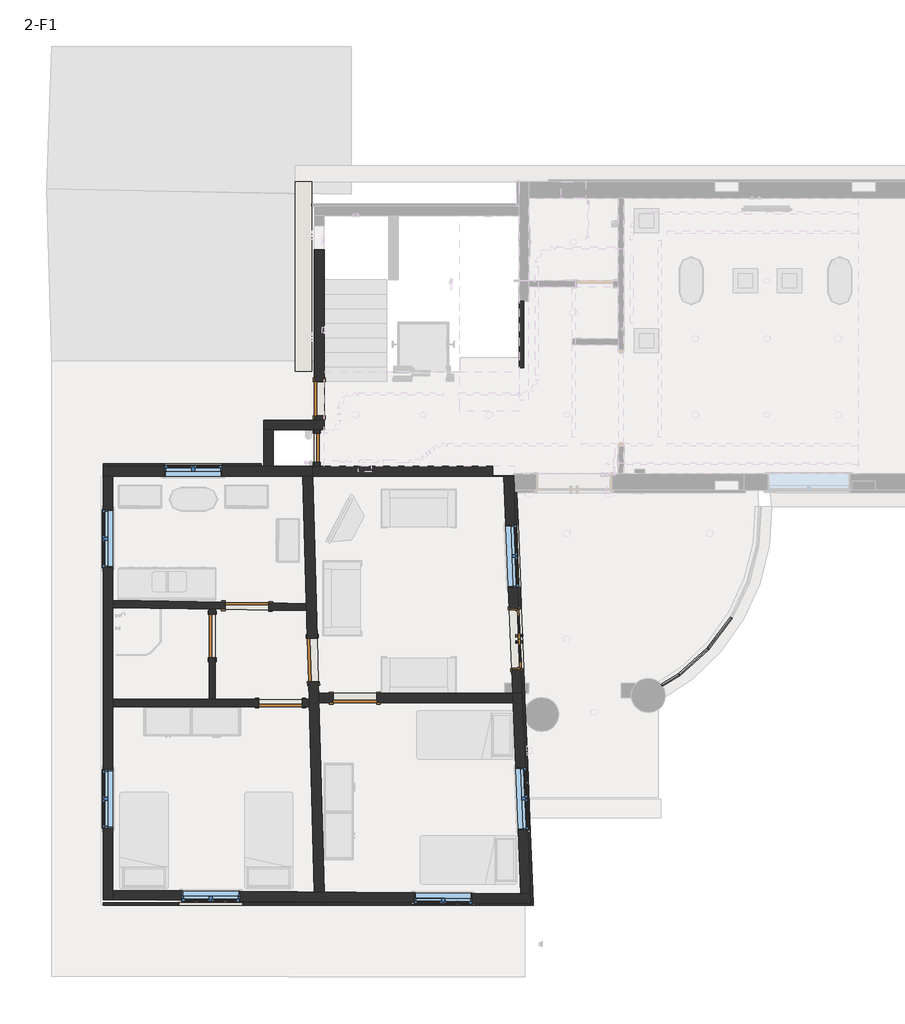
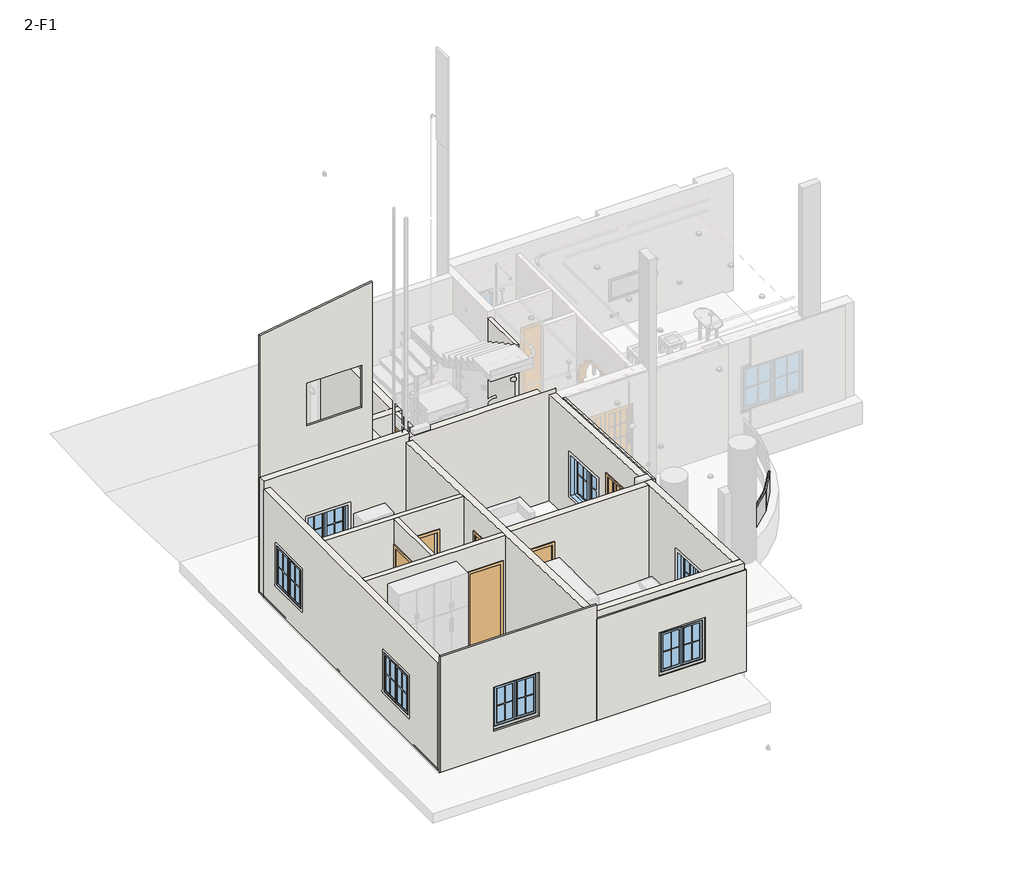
# One storey, part 1 of 6: 22 walls, 8 doors, 7 windows, 3 members, 3 plates.
"""IFC4 building model written with IfcOpenShell, lengths in millimetres."""

from ifc_helpers import new_model, si_unit, frame, origin, place, context, project, spatial, polyline, circle_curve, outline, extrude, faceted_brep, transform, mapped, element, save
from ifc_brep_helpers import plane_surface, revolved_surface, advanced_brep
from components import m_door_interior_double_full_glass_wood_1200_x_2400mm_8371465c, m_single_flush_0700x_2400_d2e98c9f, m_single_flush_0900_x_2400mm_06beea5e, m_single_flush_0900_x_2400mm_e5ebad00, m_single_flush_0900_x_2400mm_549ab639, m_single_flush_0900_x_2400mm_8538d4a5, m_single_flush_600x210mm_be854fa6, circular_mullion_25mm_radius_7246b462, circular_mullion_25mm_radius_00b6462a, circular_mullion_25mm_radius_4165b87d, system_panel_glazed_cc563820, system_panel_glazed_1e96436b, m_window_casement_double_1200_x_1300mm_fd8d9702, m_window_casement_double_1300_x_1300mm_8c8ee3f3

model = new_model("IFC4")

# Units and contexts
model_context = context("Model", 3, world=origin())
ifc_project = project(units=[si_unit("LENGTHUNIT", "METRE", prefix="MILLI")], contexts=[model_context])

# Site, building, storey
site = spatial("IfcSite", under=ifc_project)
building = spatial("IfcBuilding", under=site)
storey = spatial("IfcBuildingStorey", under=building, Name="2-F1", Elevation=3000.0)

# Doors
placement = place(None, origin())
m_door_interior_double_full_glass_wood_1200_x_2400mm_shape = m_door_interior_double_full_glass_wood_1200_x_2400mm_8371465c(model_context)
element("IfcDoor", 1, ObjectType="M_Door-Interior-Double-Full Glass-Wood : 1200 x 2400mm", at=placement, inside=storey, context=model_context, shape_type="MappedRepresentation", body=[
    mapped(m_door_interior_double_full_glass_wood_1200_x_2400mm_shape, transform((-903.2753461, -237.9446907, 3050.0), x_axis=(0.039910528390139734, -0.9992032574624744, 0.0), y_axis=(0.9992032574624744, 0.039910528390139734, 0.0), z_axis=(0.0, 0.0, 1.0))),
])
m_single_flush_0700x_2400_shape = m_single_flush_0700x_2400_d2e98c9f(model_context)
element("IfcDoor", 2, ObjectType="M_Single-Flush : 0700x 2400", at=placement, inside=storey, context=model_context, shape_type="MappedRepresentation", body=[
    mapped(m_single_flush_0700x_2400_shape, transform((-4957.4765921, 4726.9560655, 3050.0), x_axis=(0.0, -1.0, 0.0), y_axis=(1.0, 0.0, 0.0), z_axis=(0.0, 0.0, 1.0))),
])
m_single_flush_0900_x_2400mm_shape = m_single_flush_0900_x_2400mm_06beea5e(model_context)
element("IfcDoor", 3, ObjectType="M_Single-Flush : 0900 x 2400mm", at=placement, inside=storey, context=model_context, shape_type="MappedRepresentation", body=[
    mapped(m_single_flush_0900_x_2400mm_shape, transform((-5088.554955, -671.1432348, 3050.0), x_axis=(0.027542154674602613, -0.9996206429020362, 0.0), y_axis=(0.9996206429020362, 0.027542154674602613, 0.0), z_axis=(0.0, 0.0, 1.0))),
])
m_single_flush_0900_x_2400mm_2_shape = m_single_flush_0900_x_2400mm_e5ebad00(model_context)
element("IfcDoor", 4, ObjectType="M_Single-Flush : 0900 x 2400mm", at=placement, inside=storey, context=model_context, shape_type="MappedRepresentation", body=[
    mapped(m_single_flush_0900_x_2400mm_2_shape, transform((-5756.5778823, -1563.0930566, 3050.0), x_axis=(1.0, 0.0, 0.0), y_axis=(0.0, 1.0, 0.0), z_axis=(0.0, 0.0, 1.0))),
])
element("IfcDoor", 5, ObjectType="M_Single-Flush : 0900 x 2400mm", at=placement, inside=storey, context=model_context, shape_type="MappedRepresentation", body=[
    mapped(m_single_flush_0900_x_2400mm_2_shape, transform((-6448.5993032, 439.8118174, 3050.0), x_axis=(-0.9998657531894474, 0.01638522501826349, 0.0), y_axis=(-0.01638522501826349, -0.9998657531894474, 0.0), z_axis=(0.0, 0.0, 1.0))),
])
m_single_flush_0900_x_2400mm_3_shape = m_single_flush_0900_x_2400mm_549ab639(model_context)
element("IfcDoor", 6, ObjectType="M_Single-Flush : 0900 x 2400mm", at=placement, inside=storey, context=model_context, shape_type="MappedRepresentation", body=[
    mapped(m_single_flush_0900_x_2400mm_3_shape, transform((-7165.704747, -178.6962322, 3050.0), x_axis=(0.0, 1.0, 0.0), y_axis=(-1.0, 0.0, 0.0), z_axis=(0.0, 0.0, 1.0))),
])
m_single_flush_0900_x_2400mm_4_shape = m_single_flush_0900_x_2400mm_8538d4a5(model_context)
element("IfcDoor", 7, ObjectType="M_Single-Flush : 0900 x 2400mm", at=placement, inside=storey, context=model_context, shape_type="MappedRepresentation", body=[
    mapped(m_single_flush_0900_x_2400mm_4_shape, transform((-4222.0310172, -1459.4213317, 3050.0), x_axis=(-1.0, 0.0, 0.0), y_axis=(0.0, -1.0, 0.0), z_axis=(0.0, 0.0, 1.0))),
])
m_single_flush_600x210mm_shape = m_single_flush_600x210mm_be854fa6(model_context)
element("IfcDoor", 8, ObjectType="M_Single-Flush : 600x210mm", at=placement, inside=storey, context=model_context, shape_type="MappedRepresentation", body=[
    mapped(m_single_flush_600x210mm_shape, transform((-5007.4765921, 3709.4560655, 3950.0), x_axis=(0.0, -1.0, 0.0), y_axis=(1.0, 0.0, 0.0), z_axis=(0.0, 0.0, 1.0))),
])

# Members
circular_mullion_25mm_radius_shape = circular_mullion_25mm_radius_7246b462(model_context)
element("IfcMember", 9, ObjectType="Circular Mullion : 25mm Radius", at=placement, inside=storey, context=model_context, shape_type="MappedRepresentation", body=[
    mapped(circular_mullion_25mm_radius_shape, transform((2477.1564521, -973.5816424, 4110.0), x_axis=(0.0, 0.0, 1.0), y_axis=(-0.6682778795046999, 0.743911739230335, 0.0), z_axis=(-0.743911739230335, -0.6682778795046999, 0.0))),
])
circular_mullion_25mm_radius_2_shape = circular_mullion_25mm_radius_00b6462a(model_context)
element("IfcMember", 10, ObjectType="Circular Mullion : 25mm Radius", at=placement, inside=storey, context=model_context, shape_type="MappedRepresentation", body=[
    mapped(circular_mullion_25mm_radius_2_shape, transform((3072.2858434, -438.9593388, 4110.0), x_axis=(0.0, 0.0, 1.0), y_axis=(-0.7997412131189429, 0.6003448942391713, 0.0), z_axis=(-0.6003448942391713, -0.7997412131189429, 0.0))),
])
circular_mullion_25mm_radius_3_shape = circular_mullion_25mm_radius_4165b87d(model_context)
element("IfcMember", 11, ObjectType="Circular Mullion : 25mm Radius", at=placement, inside=storey, context=model_context, shape_type="MappedRepresentation", body=[
    mapped(circular_mullion_25mm_radius_3_shape, transform((1846.8907477, -1355.3612353, 4110.0), x_axis=(0.0, 0.0, 1.0), y_axis=(-0.5181035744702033, 0.8553178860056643, 0.0), z_axis=(-0.8553178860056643, -0.5181035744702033, 0.0))),
])

# Plates
system_panel_glazed_shape = system_panel_glazed_cc563820(model_context)
element("IfcPlate", 12, ObjectType="System Panel : Glazed", at=placement, inside=storey, context=model_context, shape_type="MappedRepresentation", body=[
    mapped(system_panel_glazed_shape, transform((3312.4238011, -119.0628535, 3430.0), x_axis=(-0.6003448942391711, -0.7997412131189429, 0.0), y_axis=(0.7997412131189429, -0.6003448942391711, 0.0), z_axis=(0.0, 0.0, 1.0))),
])
element("IfcPlate", 13, ObjectType="System Panel : Glazed", at=placement, inside=storey, context=model_context, shape_type="MappedRepresentation", body=[
    mapped(system_panel_glazed_shape, transform((2774.7211477, -706.2704906, 3430.0), x_axis=(-0.7439117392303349, -0.6682778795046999, 0.0), y_axis=(0.6682778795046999, -0.7439117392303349, 0.0), z_axis=(0.0, 0.0, 1.0))),
])
system_panel_glazed_2_shape = system_panel_glazed_1e96436b(model_context)
element("IfcPlate", 14, ObjectType="System Panel : Glazed", at=placement, inside=storey, context=model_context, shape_type="MappedRepresentation", body=[
    mapped(system_panel_glazed_2_shape, transform((2162.0235999, -1164.4714388, 3430.0), x_axis=(-0.8553178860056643, -0.5181035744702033, 0.0), y_axis=(0.5181035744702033, -0.8553178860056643, 0.0), z_axis=(0.0, 0.0, 1.0))),
])

# Walls
element("IfcWall", 15, ObjectType="Generic - 200mm", at=placement, inside=storey, context=model_context, shape_type="Brep", body=[
    faceted_brep([(-5098.6621209, 3326.4863231, 3000.0), (-5907.4765921, 3326.4863231, 3000.0), (-6107.4765921, 3326.4863231, 3000.0), (-9417.4765921, 3326.4863231, 3000.0), (-9417.4765921, 3326.4863231, 6550.0), (-6107.4765921, 3326.4863231, 6550.0), (-5907.4765921, 3326.4863231, 6550.0), (-5195.9448103, 3326.4863231, 6550.0), (-5195.9448103, 3326.4863231, 6300.0), (-5098.6621209, 3326.4863231, 6300.0), (-6957.7664451, 3326.4863231, 5000.0), (-8157.7664451, 3326.4863231, 5000.0), (-8157.7664451, 3326.4863231, 3800.0), (-6957.7664451, 3326.4863231, 3800.0), (-5093.1515995, 3126.4863231, 3000.0), (-5093.1515995, 3126.4863231, 6300.0), (-5195.9448103, 3126.4863231, 6300.0), (-5195.9448103, 3126.4863231, 6425.5545865), (-5195.9448103, 3126.4863231, 6550.0), (-9417.4765921, 3126.4863231, 6550.0), (-9417.4765921, 3126.4863231, 6300.0), (-9417.4765921, 3126.4863231, 3000.0), (-9217.4765921, 3126.4863231, 3000.0), (-5293.2274997, 3126.4863231, 3000.0), (-6957.7664451, 3126.4863231, 5000.0), (-6957.7664451, 3126.4863231, 3800.0), (-8157.7664451, 3126.4863231, 3800.0), (-8157.7664451, 3126.4863231, 5000.0)], [[[0, 1, 2, 3, 4, 5, 6, 7, 8, 9], [10, 11, 12, 13]], [[14, 15, 16, 17, 18, 19, 20, 21, 22, 23], [24, 25, 26, 27]], [[3, 2, 1, 0, 14, 23, 22, 21]], [[7, 6, 5, 4, 19, 18]], [[8, 7, 18, 17, 16]], [[8, 16, 15, 9]], [[0, 9, 15, 14]], [[4, 3, 21, 20, 19]], [[25, 24, 10, 13]], [[26, 25, 13, 12]], [[27, 26, 12, 11]], [[24, 27, 11, 10]]]),
])
element("IfcWall", 16, ObjectType="Generic - 200mm", at=placement, inside=storey, context=model_context, shape_type="Brep", body=[
    faceted_brep([(-9417.4765921, 3126.4863231, 3000.0), (-9417.4765921, -5625.3267977, 3000.0), (-9417.4765921, -5625.3267977, 6300.0), (-9417.4765921, 3126.4863231, 6300.0), (-9417.4765921, -2942.6953302, 5000.0), (-9417.4765921, -4142.6953302, 5000.0), (-9417.4765921, -4142.6953302, 3800.0), (-9417.4765921, -2942.6953302, 3800.0), (-9417.4765921, 2435.5038937, 5000.0), (-9417.4765921, 1235.5038937, 5000.0), (-9417.4765921, 1235.5038937, 3800.0), (-9417.4765921, 2435.5038937, 3800.0), (-9217.4765921, 3126.4863231, 3000.0), (-9217.4765921, 3126.4863231, 6300.0), (-9217.4765921, 560.1966561, 6300.0), (-9217.4765921, 410.1765163, 6300.0), (-9217.4765921, -1488.0930566, 6300.0), (-9217.4765921, -1638.0930566, 6300.0), (-9217.4765921, -5427.1304734, 6300.0), (-9217.4765921, -5627.1386806, 6300.0), (-9217.4765921, -5627.1386806, 3000.0), (-9217.4765921, -5427.1304734, 3000.0), (-9217.4765921, -1638.0930566, 3000.0), (-9217.4765921, -1488.0930566, 3000.0), (-9217.4765921, 410.1765163, 3000.0), (-9217.4765921, 560.1966561, 3000.0), (-9217.4765921, -2942.6953302, 5000.0), (-9217.4765921, -2942.6953302, 3800.0), (-9217.4765921, -4142.6953302, 3800.0), (-9217.4765921, -4142.6953302, 5000.0), (-9217.4765921, 2435.5038937, 5000.0), (-9217.4765921, 2435.5038937, 3800.0), (-9217.4765921, 1235.5038937, 3800.0), (-9217.4765921, 1235.5038937, 5000.0)], [[[0, 1, 2, 3], [4, 5, 6, 7], [8, 9, 10, 11]], [[12, 13, 14, 15, 16, 17, 18, 19, 20, 21, 22, 23, 24, 25], [26, 27, 28, 29], [30, 31, 32, 33]], [[1, 0, 12, 25, 24, 23, 22, 21, 20]], [[3, 2, 19, 18, 17, 16, 15, 14, 13]], [[2, 1, 20, 19]], [[0, 3, 13, 12]], [[27, 26, 4, 7]], [[28, 27, 7, 6]], [[29, 28, 6, 5]], [[26, 29, 5, 4]], [[31, 30, 8, 11]], [[32, 31, 11, 10]], [[33, 32, 10, 9]], [[30, 33, 9, 8]]]),
])
element("IfcWall", 17, ObjectType="Generic - 200mm", at=placement, inside=storey, context=model_context, shape_type="Brep", body=[
    faceted_brep([(-9217.4765921, -5627.1386806, 3000.0), (-2931.3480508, -5684.0873245, 3000.0), (-587.99344, -5705.3167452, 3000.0), (-587.99344, -5705.3167452, 6100.0), (-587.99344, -5705.3167452, 6300.0), (-9217.4765921, -5627.1386806, 6300.0), (-2996.7628931, -5683.4947043, 5000.0), (-1796.8121339, -5694.3655556, 5000.0), (-1796.8121339, -5694.3655556, 3800.0), (-2996.7628931, -5683.4947043, 3800.0), (-7796.5659301, -5640.0112992, 5000.0), (-6596.6151708, -5650.8821505, 5000.0), (-6596.6151708, -5650.8821505, 3800.0), (-7796.5659301, -5640.0112992, 3800.0), (-9217.4765921, -5427.1304734, 3000.0), (-9217.4765921, -5427.1304734, 6300.0), (-5056.5144383, -5464.8263542, 6300.0), (-4856.3885846, -5466.6393773, 6300.0), (-796.2170605, -5503.422154, 6300.0), (-595.9851301, -5505.236138, 6300.0), (-595.9851301, -5505.236138, 3000.0), (-796.2170605, -5503.422154, 3000.0), (-4856.3885846, -5466.6393773, 3000.0), (-5056.5144383, -5464.8263542, 3000.0), (-2994.9510846, -5483.5029111, 5000.0), (-2994.9510846, -5483.5029111, 3800.0), (-1795.0003253, -5494.3737624, 3800.0), (-1795.0003253, -5494.3737624, 5000.0), (-7794.7541215, -5440.019506, 5000.0), (-7794.7541215, -5440.019506, 3800.0), (-6594.8033623, -5450.8903573, 3800.0), (-6594.8033623, -5450.8903573, 5000.0), (-588.841393, -5684.0873245, 3000.0)], [[[0, 1, 2, 3, 4, 5], [6, 7, 8, 9], [10, 11, 12, 13]], [[14, 15, 16, 17, 18, 19, 20, 21, 22, 23], [24, 25, 26, 27], [28, 29, 30, 31]], [[0, 5, 15, 14]], [[4, 3, 2, 32, 20, 19]], [[25, 24, 6, 9]], [[26, 25, 9, 8]], [[27, 26, 8, 7]], [[24, 27, 7, 6]], [[29, 28, 10, 13]], [[30, 29, 13, 12]], [[31, 30, 12, 11]], [[28, 31, 11, 10]], [[2, 1, 0, 14, 23, 22, 21, 20, 32]], [[5, 4, 19, 18, 17, 16, 15]]]),
])
element("IfcWall", 18, ObjectType="Generic - 200mm", at=placement, inside=storey, context=model_context, shape_type="Brep", body=[
    faceted_brep([(-595.9851301, -5505.236138, 3000.0), (-761.5787251, -1359.4213317, 3000.0), (-761.5787251, -1359.4213317, 6300.0), (-595.9851301, -5505.236138, 6300.0), (-648.855402, -4181.5716801, 3800.0), (-648.855402, -4181.5716801, 5100.0), (-700.7390889, -2882.6074454, 5100.0), (-700.7390889, -2882.6074454, 3800.0), (-961.7382007, -1359.4213317, 3000.0), (-953.7497302, -1559.4213317, 3000.0), (-796.2170605, -5503.422154, 3000.0), (-796.2170605, -5503.422154, 6300.0), (-953.7497302, -1559.4213317, 6300.0), (-961.7382007, -1359.4213317, 6300.0), (-848.6960535, -4189.5537857, 5100.0), (-848.6960535, -4189.5537857, 3800.0), (-900.5797404, -2890.589551, 3800.0), (-900.5797404, -2890.589551, 5100.0)], [[[0, 1, 2, 3], [4, 5, 6, 7]], [[8, 9, 10, 11, 12, 13], [14, 15, 16, 17]], [[1, 0, 10, 9, 8]], [[3, 2, 13, 12, 11]], [[0, 3, 11, 10]], [[14, 5, 4, 15]], [[15, 4, 7, 16]], [[16, 7, 6, 17]], [[5, 14, 17, 6]], [[2, 1, 8, 13]]]),
])
element("IfcWall", 19, ObjectType="Generic - 200mm", at=placement, inside=storey, context=model_context, shape_type="Brep", body=[
    faceted_brep([(-961.7382007, -1359.4213317, 3000.0), (-4969.5531491, -1359.4213317, 3000.0), (-4969.5531491, -1359.4213317, 6300.0), (-961.7382007, -1359.4213317, 6300.0), (-3772.0310172, -1359.4213317, 3050.0), (-3772.0310172, -1359.4213317, 5475.0), (-4672.0310172, -1359.4213317, 5475.0), (-4672.0310172, -1359.4213317, 3050.0), (-953.7497302, -1559.4213317, 3000.0), (-953.7497302, -1559.4213317, 6300.0), (-4964.0426277, -1559.4213317, 6300.0), (-4964.0426277, -1559.4213317, 3000.0), (-3772.0310172, -1559.4213317, 3050.0), (-4672.0310172, -1559.4213317, 3050.0), (-4672.0310172, -1559.4213317, 5475.0), (-3772.0310172, -1559.4213317, 5475.0)], [[[0, 1, 2, 3], [4, 5, 6, 7]], [[8, 9, 10, 11], [12, 13, 14, 15]], [[1, 0, 8, 11]], [[3, 2, 10, 9]], [[2, 1, 11, 10]], [[13, 12, 4, 7]], [[14, 13, 7, 6]], [[15, 14, 6, 5]], [[12, 15, 5, 4]], [[0, 3, 9, 8]]]),
])
element("IfcWall", 20, ObjectType="Generic - 200mm", at=placement, inside=storey, context=model_context, shape_type="Brep", body=[
    faceted_brep([(-4856.3885846, -5466.6393773, 3000.0), (-4964.0426277, -1559.4213317, 3000.0), (-4969.5531491, -1359.4213317, 3000.0), (-5093.1515995, 3126.4863231, 3000.0), (-5093.1515995, 3126.4863231, 6300.0), (-4969.5531491, -1359.4213317, 6300.0), (-4964.0426277, -1559.4213317, 6300.0), (-4856.3885846, -5466.6393773, 6300.0), (-5000.9868604, -218.5597301, 3050.0), (-4976.1989212, -1118.2183087, 3050.0), (-4976.1989212, -1118.2183087, 5475.0), (-5000.9868604, -218.5597301, 5475.0), (-5056.5144383, -5464.8263542, 3000.0), (-5056.5144383, -5464.8263542, 6300.0), (-5161.9509168, -1638.0930566, 6300.0), (-5166.0838078, -1488.0930566, 6300.0), (-5216.5796131, 344.6121172, 6300.0), (-5220.7149262, 494.7000241, 6300.0), (-5293.2274997, 3126.4863231, 6300.0), (-5293.2274997, 3126.4863231, 3000.0), (-5220.7149262, 494.7000241, 3000.0), (-5216.5796131, 344.6121172, 3000.0), (-5166.0838078, -1488.0930566, 3000.0), (-5161.9509168, -1638.0930566, 3000.0), (-5200.9109889, -224.068161, 3050.0), (-5200.9109889, -224.068161, 5475.0), (-5176.1230497, -1123.7267396, 5475.0), (-5176.1230497, -1123.7267396, 3050.0), (-5195.9448103, 3126.4863231, 6300.0)], [[[0, 1, 2, 3, 4, 5, 6, 7], [8, 9, 10, 11]], [[12, 13, 14, 15, 16, 17, 18, 19, 20, 21, 22, 23], [24, 25, 26, 27]], [[3, 2, 1, 0, 12, 23, 22, 21, 20, 19]], [[7, 6, 5, 4, 28, 18, 17, 16, 15, 14, 13]], [[0, 7, 13, 12]], [[4, 3, 19, 18, 28]], [[9, 8, 24, 27]], [[10, 9, 27, 26]], [[11, 10, 26, 25]], [[8, 11, 25, 24]]]),
])
element("IfcWall", 21, ObjectType="Generic - 200mm", at=placement, inside=storey, context=model_context, shape_type="Brep", body=[
    faceted_brep([(-4857.4765921, 4284.4560655, 6550.0), (-4857.4765921, 4284.4560655, 3000.0), (-5057.4765921, 4284.4560655, 3000.0), (-5107.4765921, 4284.4560655, 3000.0), (-6107.4765921, 4284.4560655, 3000.0), (-6107.4765921, 4284.4560655, 6550.0), (-5057.4765921, 4284.4560655, 6550.0), (-4857.4765921, 4084.4560655, 3000.0), (-4857.4765921, 4084.4560655, 6550.0), (-4957.4765921, 4084.4560655, 6550.0), (-5057.4765921, 4084.4560655, 6550.0), (-5907.4765921, 4084.4560655, 6550.0), (-6107.4765921, 4084.4560655, 6550.0), (-6107.4765921, 4084.4560655, 3000.0), (-5907.4765921, 4084.4560655, 3000.0), (-5057.4765921, 4084.4560655, 3000.0), (-4957.4765921, 4084.4560655, 3000.0)], [[[0, 1, 2, 3, 4, 5, 6]], [[7, 8, 9, 10, 11, 12, 13, 14, 15, 16]], [[4, 3, 2, 1, 7, 16, 15, 14, 13]], [[0, 6, 5, 12, 11, 10, 9, 8]], [[5, 4, 13, 12]], [[0, 8, 7, 1]]]),
])
element("IfcWall", 22, ObjectType="Generic - 200mm", at=placement, inside=storey, context=model_context, shape_type="SweptSolid", body=[
    extrude(outline(polyline([(-6107.4765921, 3326.4863231), (-6107.4765921, 4084.4560655), (-5907.4765921, 4084.4560655), (-5907.4765921, 3326.4863231), (-6107.4765921, 3326.4863231)])), frame((0.0, 0.0, 3000.0), z_axis=(0.0, 0.0, 1.0), x_axis=(1.0, 0.0, 0.0)), (0.0, 0.0, 1.0), 3550.0),
])
element("IfcWall", 23, ObjectType="Generic - 200mm", at=placement, inside=storey, context=model_context, shape_type="Brep", body=[
    faceted_brep([(-761.5787251, -1359.4213317, 3000.0), (-926.9428586, 2780.6486583, 3000.0), (-928.9399762, 2830.6486583, 3000.0), (-940.7564284, 3126.4863231, 3000.0), (-940.7564284, 3126.4863231, 6300.0), (-928.9399762, 2830.6486583, 6300.0), (-926.9428586, 2780.6486583, 6300.0), (-761.5787251, -1359.4213317, 6300.0), (-781.5834105, -858.5823897, 5475.0), (-831.471571, 390.4216821, 5475.0), (-831.471571, 390.4216821, 3050.0), (-781.5834105, -858.5823897, 3050.0), (-848.9229213, 827.3351187, 3800.0), (-848.9229213, 827.3351187, 5100.0), (-900.8066082, 2126.2993534, 5100.0), (-900.8066082, 2126.2993534, 3800.0), (-1140.915904, 3126.4863231, 3000.0), (-961.7382007, -1359.4213317, 3000.0), (-961.7382007, -1359.4213317, 6300.0), (-1140.915904, 3126.4863231, 6300.0), (-1031.3122225, 382.4395764, 5475.0), (-981.424062, -866.5644954, 5475.0), (-981.424062, -866.5644954, 3050.0), (-1031.3122225, 382.4395764, 3050.0), (-1048.7635728, 819.3530131, 5100.0), (-1048.7635728, 819.3530131, 3800.0), (-1100.6472597, 2118.3172478, 3800.0), (-1100.6472597, 2118.3172478, 5100.0)], [[[0, 1, 2, 3, 4, 5, 6, 7], [8, 9, 10, 11], [12, 13, 14, 15]], [[16, 17, 18, 19], [20, 21, 22, 23], [24, 25, 26, 27]], [[3, 2, 1, 0, 17, 16]], [[7, 6, 5, 4, 19, 18]], [[8, 21, 20, 9]], [[9, 20, 23, 10]], [[10, 23, 22, 11]], [[25, 24, 13, 12]], [[26, 25, 12, 15]], [[27, 26, 15, 14]], [[24, 27, 14, 13]], [[21, 8, 11, 22]], [[4, 3, 16, 19]], [[0, 7, 18, 17]]]),
])
element("IfcWall", 24, ObjectType="Generic - 200mm", at=placement, inside=storey, context=model_context, shape_type="Brep", body=[
    faceted_brep([(-5093.1515995, 3126.4863231, 3000.0), (-1140.915904, 3126.4863231, 3000.0), (-940.7564284, 3126.4863231, 3000.0), (-940.7564284, 3126.4863231, 6300.0), (-940.7564284, 3126.4863231, 6425.5545865), (-5195.9448103, 3126.4863231, 6425.5545865), (-5195.9448103, 3126.4863231, 6300.0), (-5093.1515995, 3126.4863231, 6300.0), (-5195.9448103, 3326.4863231, 6300.0), (-5195.9448103, 3326.4863231, 6425.5545865), (-1367.4765921, 3326.4863231, 6425.5545865), (-1367.4765921, 3326.4863231, 3000.0), (-4957.4765921, 3326.4863231, 3000.0), (-5057.4765921, 3326.4863231, 3000.0), (-5098.6621209, 3326.4863231, 3000.0), (-5098.6621209, 3326.4863231, 6300.0), (-2857.8606653, 3326.4863231, 3420.0), (-2857.8606653, 3326.4863231, 3480.0), (-2917.8606653, 3326.4863231, 3480.0), (-2917.8606653, 3326.4863231, 3420.0), (-1367.4765921, 3134.4560655, 3000.0), (-941.0747587, 3134.4560655, 3000.0), (-941.0747587, 3134.4560655, 6425.5545865), (-1367.4765921, 3134.4560655, 6425.5545865), (-2857.8606653, 3276.4863231, 3420.0), (-2917.8606653, 3276.4863231, 3420.0), (-2917.8606653, 3276.4863231, 3480.0), (-2857.8606653, 3276.4863231, 3480.0)], [[[0, 1, 2, 3, 4, 5, 6, 7]], [[8, 9, 10, 11, 12, 13, 14, 15], [16, 17, 18, 19]], [[2, 1, 0, 14, 13, 12, 11, 20, 21]], [[5, 4, 22, 23, 10, 9]], [[4, 3, 2, 21, 22]], [[5, 9, 8, 6]], [[6, 8, 15, 7]], [[0, 7, 15, 14]], [[24, 25, 26, 27]], [[24, 27, 17, 16]], [[27, 26, 18, 17]], [[26, 25, 19, 18]], [[25, 24, 16, 19]], [[23, 20, 11, 10]], [[20, 23, 22, 21]]]),
])
element("IfcWall", 25, ObjectType="Generic - 200mm", at=placement, inside=storey, context=model_context, shape_type="AdvancedBrep", body=[
    advanced_brep(
    [(-5057.4765921, 7801.6620874, 3000.0), (-5057.4765921, 4284.4560655, 3000.0), (-5057.4765921, 4284.4560655, 6300.0), (-5057.4765921, 4284.4560655, 6550.0), (-5057.4765921, 7801.6620874, 6550.0), (-5057.4765921, 5076.9560655, 3050.0), (-5057.4765921, 5076.9560655, 5450.0), (-5057.4765921, 4376.9560655, 5450.0), (-5057.4765921, 4376.9560655, 3050.0), (-4857.4765921, 4284.4560655, 3000.0), (-4857.4765921, 7801.6620874, 3000.0), (-4857.4765921, 7801.6620874, 6550.0), (-4857.4765921, 4284.4560655, 6550.0), (-4857.4765921, 5076.9560655, 3050.0), (-4857.4765921, 4376.9560655, 3050.0), (-4857.4765921, 4376.9560655, 5450.0), (-4857.4765921, 5076.9560655, 5450.0), (-4857.4765921, 5364.4560655, 4120.0), (-4857.4765921, 5364.4560655, 4180.0), (-4857.4765921, 5424.4560655, 4180.0), (-4857.4765921, 5424.4560655, 4120.0), (-4857.4765921, 5484.4560655, 4120.0), (-4857.4765921, 5484.4560655, 4180.0), (-4857.4765921, 5544.4560655, 4180.0), (-4857.4765921, 5544.4560655, 4120.0), (-4857.4765921, 6201.0955313, 5289.1812865), (-4857.4765921, 6091.0955313, 5289.1812865), (-4907.4765921, 5364.4560655, 4120.0), (-4907.4765921, 5424.4560655, 4120.0), (-4907.4765921, 5424.4560655, 4180.0), (-4907.4765921, 5364.4560655, 4180.0), (-4907.4765921, 5484.4560655, 4120.0), (-4907.4765921, 5544.4560655, 4120.0), (-4907.4765921, 5544.4560655, 4180.0), (-4907.4765921, 5484.4560655, 4180.0), (-4895.5765921, 6091.0955313, 5289.1812865), (-4895.5765921, 6201.0955313, 5289.1812865)],
    [
        (0, 1),
        (1, 2),
        (2, 3),
        (3, 4),
        (4, 0),
        (5, 6),
        (6, 7),
        (7, 8),
        (8, 5),
        (9, 10),
        (10, 11),
        (11, 12),
        (12, 9),
        (13, 14),
        (14, 15),
        (15, 16),
        (16, 13),
        (17, 18),
        (18, 19),
        (19, 20),
        (20, 17),
        (21, 22),
        (22, 23),
        (23, 24),
        (24, 21),
        (25, 26, circle_curve(frame((-4857.4765921, 6146.0955313, 5289.1812865), z_axis=(-1.0, 0.0, 0.0), x_axis=(0.0, 1.0, 0.0)), 55.0)),
        (26, 25, circle_curve(frame((-4857.4765921, 6146.0955313, 5289.1812865), z_axis=(-1.0, 0.0, 0.0), x_axis=(0.0, 1.0, 0.0)), 55.0)),
        (0, 10),
        (9, 1),
        (3, 12),
        (11, 4),
        (16, 6),
        (5, 13),
        (15, 7),
        (14, 8),
        (27, 28),
        (28, 29),
        (29, 30),
        (30, 27),
        (30, 18),
        (17, 27),
        (29, 19),
        (28, 20),
        (31, 32),
        (32, 33),
        (33, 34),
        (34, 31),
        (34, 22),
        (21, 31),
        (33, 23),
        (32, 24),
        (35, 36, circle_curve(frame((-4895.5765921, 6146.0955313, 5289.1812865), z_axis=(1.0, 0.0, 0.0), x_axis=(0.0, 1.0, 0.0)), 55.0)),
        (36, 35, circle_curve(frame((-4895.5765921, 6146.0955313, 5289.1812865), z_axis=(1.0, 0.0, 0.0), x_axis=(0.0, 1.0, 0.0)), 55.0)),
        (35, 26),
        (25, 36),
    ],
    [
        plane_surface(frame((-5057.4765921, 8301.6620874, 3000.0), z_axis=(-1.0, 0.0, 0.0), x_axis=(0.0, -1.0, 0.0))),
        plane_surface(frame((-4857.4765921, 8301.6620874, 3000.0), z_axis=(1.0, 0.0, 0.0), x_axis=(0.0, 1.0, 0.0))),
        plane_surface(frame((-5057.4765921, 7801.6620874, 3000.0), z_axis=(0.0, 0.0, -1.0), x_axis=(1.0, 0.0, 0.0))),
        plane_surface(frame((-5057.4765921, 4184.4560655, 6550.0), z_axis=(0.0, 0.0, 1.0), x_axis=(1.0, 0.0, 0.0))),
        plane_surface(frame((-5057.4765921, 7801.6620874, 6550.0), z_axis=(0.0, 1.0, 0.0), x_axis=(1.0, 0.0, 0.0))),
        plane_surface(frame((-4479.5344445, 4284.4560655, 3000.0), z_axis=(0.0, -1.0, 0.0), x_axis=(-1.0, 0.0, 0.0))),
        plane_surface(frame((-4857.4765921, 5076.9560655, 5450.0), z_axis=(0.0, -1.0, 0.0), x_axis=(-1.0, 0.0, 0.0))),
        plane_surface(frame((-4857.4765921, 4376.9560655, 5450.0), z_axis=(0.0, 0.0, -1.0), x_axis=(-1.0, 0.0, 0.0))),
        plane_surface(frame((-4857.4765921, 4376.9560655, 3050.0), z_axis=(0.0, 1.0, 0.0), x_axis=(-1.0, 0.0, 0.0))),
        plane_surface(frame((-4857.4765921, 5076.9560655, 3050.0), z_axis=(0.0, 0.0, 1.0), x_axis=(-1.0, 0.0, 0.0))),
        plane_surface(frame((-4907.4765921, 5364.4560655, 4120.0), z_axis=(1.0, 0.0, 0.0), x_axis=(0.0, 0.0, 1.0))),
        plane_surface(frame((-4907.4765921, 5364.4560655, 4120.0), z_axis=(0.0, 1.0, 0.0), x_axis=(1.0, 0.0, 0.0))),
        plane_surface(frame((-4907.4765921, 5364.4560655, 4180.0), z_axis=(0.0, 0.0, -1.0), x_axis=(1.0, 0.0, 0.0))),
        plane_surface(frame((-4907.4765921, 5424.4560655, 4180.0), z_axis=(0.0, -1.0, 0.0), x_axis=(1.0, 0.0, 0.0))),
        plane_surface(frame((-4907.4765921, 5424.4560655, 4120.0), z_axis=(0.0, 0.0, 1.0), x_axis=(1.0, 0.0, 0.0))),
        plane_surface(frame((-4907.4765921, 5484.4560655, 4120.0), z_axis=(1.0, 0.0, 0.0), x_axis=(0.0, 0.0, 1.0))),
        plane_surface(frame((-4907.4765921, 5484.4560655, 4120.0), z_axis=(0.0, 1.0, 0.0), x_axis=(1.0, 0.0, 0.0))),
        plane_surface(frame((-4907.4765921, 5484.4560655, 4180.0), z_axis=(0.0, 0.0, -1.0), x_axis=(1.0, 0.0, 0.0))),
        plane_surface(frame((-4907.4765921, 5544.4560655, 4180.0), z_axis=(0.0, -1.0, 0.0), x_axis=(1.0, 0.0, 0.0))),
        plane_surface(frame((-4907.4765921, 5544.4560655, 4120.0), z_axis=(0.0, 0.0, 1.0), x_axis=(1.0, 0.0, 0.0))),
        plane_surface(frame((-4895.5765921, 6201.0955313, 5289.1812865), z_axis=(1.0, 0.0, 0.0), x_axis=(0.0, 0.0, -1.0))),
        revolved_surface(polyline([(-4857.4765921, 6201.0955313, 5289.1812865), (-4895.5765921, 6201.0955313, 5289.1812865)]), (-4895.5765921, 6146.0955313, 5289.1812865), (1.0, 0.0, 0.0)),
    ],
    [
        (0, [[1, 2, 3, 4, 5], [6, 7, 8, 9]]),
        (1, [[10, 11, 12, 13], [14, 15, 16, 17], [18, 19, 20, 21], [22, 23, 24, 25], [26, 27]]),
        (2, [[-1, 28, -10, 29]]),
        (3, [[-4, 30, -12, 31]]),
        (4, [[-5, -31, -11, -28]]),
        (5, [[-3, -2, -29, -13, -30]]),
        (6, [[-17, 32, -6, 33]]),
        (7, [[-16, 34, -7, -32]]),
        (8, [[-15, 35, -8, -34]]),
        (9, [[-14, -33, -9, -35]]),
        (10, [[36, 37, 38, 39]]),
        (11, [[-39, 40, -18, 41]]),
        (12, [[-38, 42, -19, -40]]),
        (13, [[-37, 43, -20, -42]]),
        (14, [[-36, -41, -21, -43]]),
        (15, [[44, 45, 46, 47]]),
        (16, [[-47, 48, -22, 49]]),
        (17, [[-46, 50, -23, -48]]),
        (18, [[-45, 51, -24, -50]]),
        (19, [[-44, -49, -25, -51]]),
        (20, [[52, 53]]),
        (21, [[-52, 54, -26, 55]]),
        (21, [[-53, -55, -27, -54]]),
    ],
),
])
element("IfcWall", 26, ObjectType="Generic -10", at=placement, inside=storey, context=model_context, shape_type="SweptSolid", body=[
    extrude(outline(polyline([(4084.4560655, 3000.0), (3326.4863231, 3000.0), (3326.4863231, 6550.0), (4084.4560655, 6550.0), (4084.4560655, 3000.0)]), holes=[polyline([(3409.4560655, 3950.0), (4009.4560655, 3950.0), (4009.4560655, 6050.0), (3409.4560655, 6050.0), (3409.4560655, 3950.0)])]), frame((-5057.4765921, 0.0, 0.0), z_axis=(1.0, 0.0, 0.0), x_axis=(0.0, 1.0, 0.0)), (0.0, 0.0, 1.0), 100.0),
])
element("IfcWall", 27, ObjectType="Generic -120mm", at=placement, inside=storey, context=model_context, shape_type="Brep", body=[
    faceted_brep([(-7105.704747, -1488.0930566, 3000.0), (-7105.704747, 375.5700137, 3000.0), (-7105.704747, 375.5700137, 6300.0), (-7105.704747, -1488.0930566, 6300.0), (-7105.704747, 271.3037678, 3050.0), (-7105.704747, -628.6962322, 3050.0), (-7105.704747, -628.6962322, 5475.0), (-7105.704747, 271.3037678, 5475.0), (-7225.704747, 377.5365047, 3000.0), (-7225.704747, -1488.0930566, 3000.0), (-7225.704747, -1488.0930566, 6300.0), (-7225.704747, 377.5365047, 6300.0), (-7225.704747, -628.6962322, 3050.0), (-7225.704747, 271.3037678, 3050.0), (-7225.704747, 271.3037678, 5475.0), (-7225.704747, -628.6962322, 5475.0)], [[[0, 1, 2, 3], [4, 5, 6, 7]], [[8, 9, 10, 11], [12, 13, 14, 15]], [[1, 0, 9, 8]], [[3, 2, 11, 10]], [[2, 1, 8, 11]], [[12, 5, 4, 13]], [[13, 4, 7, 14]], [[14, 7, 6, 15]], [[5, 12, 15, 6]], [[0, 3, 10, 9]]]),
])
element("IfcWall", 28, ObjectType="Generic -150mm", at=placement, inside=storey, context=model_context, shape_type="Brep", body=[
    faceted_brep([(-9217.4765921, -1638.0930566, 3000.0), (-5161.9509168, -1638.0930566, 3000.0), (-5161.9509168, -1638.0930566, 6300.0), (-9217.4765921, -1638.0930566, 6300.0), (-6206.5778823, -1638.0930566, 3050.0), (-6206.5778823, -1638.0930566, 5475.0), (-5306.5778823, -1638.0930566, 5475.0), (-5306.5778823, -1638.0930566, 3050.0), (-9217.4765921, -1488.0930566, 3000.0), (-9217.4765921, -1488.0930566, 6300.0), (-7225.704747, -1488.0930566, 6300.0), (-7105.704747, -1488.0930566, 6300.0), (-5166.0838078, -1488.0930566, 6300.0), (-5166.0838078, -1488.0930566, 3000.0), (-7105.704747, -1488.0930566, 3000.0), (-7225.704747, -1488.0930566, 3000.0), (-6206.5778823, -1488.0930566, 3050.0), (-5306.5778823, -1488.0930566, 3050.0), (-5306.5778823, -1488.0930566, 5475.0), (-6206.5778823, -1488.0930566, 5475.0)], [[[0, 1, 2, 3], [4, 5, 6, 7]], [[8, 9, 10, 11, 12, 13, 14, 15], [16, 17, 18, 19]], [[1, 0, 8, 15, 14, 13]], [[3, 2, 12, 11, 10, 9]], [[0, 3, 9, 8]], [[2, 1, 13, 12]], [[17, 16, 4, 7]], [[18, 17, 7, 6]], [[19, 18, 6, 5]], [[16, 19, 5, 4]]]),
])
element("IfcWall", 29, ObjectType="Generic -150mm", at=placement, inside=storey, context=model_context, shape_type="Brep", body=[
    faceted_brep([(-9217.4765921, 410.1765163, 3000.0), (-7225.704747, 377.5365047, 3000.0), (-7105.704747, 375.5700137, 3000.0), (-5216.5796131, 344.6121172, 3000.0), (-5216.5796131, 344.6121172, 6300.0), (-7105.704747, 375.5700137, 6300.0), (-7225.704747, 377.5365047, 6300.0), (-9217.4765921, 410.1765163, 6300.0), (-5999.8886062, 357.4485346, 3050.0), (-6899.767784, 372.1952371, 3050.0), (-6899.767784, 372.1952371, 5475.0), (-5999.8886062, 357.4485346, 5475.0), (-9217.4765921, 560.1966561, 3000.0), (-9217.4765921, 560.1966561, 6300.0), (-5220.7149262, 494.7000241, 6300.0), (-5220.7149262, 494.7000241, 3000.0), (-5997.4308224, 507.4283976, 3050.0), (-5997.4308224, 507.4283976, 5475.0), (-6897.3100003, 522.1751001, 5475.0), (-6897.3100003, 522.1751001, 3050.0)], [[[0, 1, 2, 3, 4, 5, 6, 7], [8, 9, 10, 11]], [[12, 13, 14, 15], [16, 17, 18, 19]], [[3, 2, 1, 0, 12, 15]], [[7, 6, 5, 4, 14, 13]], [[0, 7, 13, 12]], [[4, 3, 15, 14]], [[9, 8, 16, 19]], [[10, 9, 19, 18]], [[11, 10, 18, 17]], [[8, 11, 17, 16]]]),
])
element("IfcWall", 30, ObjectType="Wall1", at=placement, inside=storey, context=model_context, shape_type="SweptSolid", body=[
    extrude(outline(polyline([(-5107.4765921, 9201.6620874), (-5107.4765921, 5291.9560655), (-5447.4765921, 5291.9560655), (-5447.4765921, 9201.6620874), (-5107.4765921, 9201.6620874)])), frame((0.0, 0.0, 2750.0), z_axis=(0.0, 0.0, 1.0), x_axis=(1.0, 0.0, 0.0)), (0.0, 0.0, 1.0), 680.0),
])
element("IfcWall", 31, ObjectType="exterior stone walls", at=placement, inside=storey, context=model_context, shape_type="Brep", body=[
    faceted_brep([(-4875.4457195, -5684.0873245, 3000.0), (-4875.4457195, -5684.0873245, 6100.0), (-2931.3480508, -5684.0873245, 6100.0), (-2931.3480508, -5684.0873245, 5060.0), (-3056.9330058, -5684.0873245, 5060.0), (-3056.9330058, -5684.0873245, 3719.5676291), (-2931.3480508, -5684.0873245, 3719.5676291), (-2931.3480508, -5684.0873245, 3000.0), (-538.8015241, -5684.0873245, 6100.0), (-538.8015241, -5684.0873245, 3000.0), (-588.841393, -5684.0873245, 3000.0), (-588.841393, -5684.0873245, 6100.0), (-4875.4457195, -5734.0873245, 3000.0), (-536.8044065, -5734.0873245, 3000.0), (-536.8044065, -5734.0873245, 6100.0), (-4875.4457195, -5734.0873245, 6100.0), (-3056.9330058, -5734.0873245, 5060.0), (-1736.9871707, -5734.0873245, 5060.0), (-1736.9871707, -5734.0873245, 3719.5676291), (-3056.9330058, -5734.0873245, 3719.5676291), (-587.99344, -5705.3167452, 3000.0), (-587.99344, -5705.3167452, 6100.0), (-1736.9871707, -5694.9075347, 5060.0), (-1736.9871707, -5694.9075347, 3719.5676291)], [[[0, 1, 2, 3, 4, 5, 6, 7]], [[8, 9, 10, 11]], [[12, 13, 14, 15], [16, 17, 18, 19]], [[13, 12, 0, 7, 20, 10, 9]], [[1, 0, 12, 15]], [[15, 14, 8, 11, 21, 2, 1]], [[16, 4, 3, 22, 17]], [[5, 19, 18, 23, 6]], [[18, 17, 22, 23]], [[4, 16, 19, 5]], [[21, 20, 7, 6, 23, 22, 3, 2]], [[20, 21, 11, 10]], [[9, 8, 14, 13]]]),
])
element("IfcWall", 32, ObjectType="exterior stone walls", at=placement, inside=storey, context=model_context, shape_type="Brep", body=[
    faceted_brep([(-4875.4457195, -5684.0873245, 2750.0), (-9417.4765921, -5684.0873245, 2750.0), (-9417.4765921, -5684.0873245, 6550.0), (-4875.4457195, -5684.0873245, 6550.0), (-4875.4457195, -5684.0873245, 6100.0), (-4875.4457195, -5684.0873245, 3000.0), (-6536.7902076, -5684.0873245, 5060.0), (-7856.7902076, -5684.0873245, 5060.0), (-7856.7902076, -5684.0873245, 3719.5676291), (-6536.7902076, -5684.0873245, 3719.5676291), (-9417.4765921, -5734.0873245, 2750.0), (-4875.4457195, -5734.0873245, 2750.0), (-4875.4457195, -5734.0873245, 3000.0), (-4875.4457195, -5734.0873245, 6100.0), (-4875.4457195, -5734.0873245, 6550.0), (-9417.4765921, -5734.0873245, 6550.0), (-9417.4765921, -5734.0873245, 3000.0), (-7856.7902076, -5734.0873245, 5060.0), (-6536.7902076, -5734.0873245, 5060.0), (-6536.7902076, -5734.0873245, 3719.5676291), (-7856.7902076, -5734.0873245, 3719.5676291)], [[[0, 1, 2, 3, 4, 5], [6, 7, 8, 9]], [[10, 11, 12, 13, 14, 15, 16], [17, 18, 19, 20]], [[1, 0, 11, 10]], [[3, 2, 15, 14]], [[0, 5, 4, 3, 14, 13, 12, 11]], [[2, 1, 10, 16, 15]], [[6, 18, 17, 7]], [[8, 20, 19, 9]], [[18, 6, 9, 19]], [[7, 17, 20, 8]]]),
])
element("IfcWall", 33, ObjectType="exterior stone walls", at=placement, inside=storey, context=model_context, shape_type="Brep", body=[
    faceted_brep([(-538.8015241, -5684.0873245, 3000.0), (-707.9629788, -1448.9472914, 3000.0), (-707.9629788, -1448.9472914, 6100.0), (-538.8015241, -5684.0873245, 6100.0), (-596.6689733, -4235.3131267, 5145.3880973), (-652.5437131, -2836.4285663, 5145.3880973), (-652.5437131, -2836.4285663, 3713.3014301), (-596.6689733, -4235.3131267, 3713.3014301), (-757.9231417, -1450.9428178, 3000.0), (-588.841393, -5684.0873245, 3000.0), (-588.841393, -5684.0873245, 6100.0), (-757.9231417, -1450.9428178, 6100.0), (-702.503876, -2838.4240927, 5145.3880973), (-646.6291362, -4237.3086531, 5145.3880973), (-646.6291362, -4237.3086531, 3713.3014301), (-702.503876, -2838.4240927, 3713.3014301)], [[[0, 1, 2, 3], [4, 5, 6, 7]], [[8, 9, 10, 11], [12, 13, 14, 15]], [[1, 0, 9, 8]], [[2, 1, 8, 11]], [[3, 2, 11, 10]], [[4, 13, 12, 5]], [[6, 15, 14, 7]], [[13, 4, 7, 14]], [[5, 12, 15, 6]], [[0, 3, 10, 9]]]),
])
element("IfcWall", 34, ObjectType="exterior stone walls", at=placement, inside=storey, context=model_context, shape_type="Brep", body=[
    faceted_brep([(-6157.4765921, 3376.4863231, 3000.0), (-9417.4765921, 3376.4863231, 3000.0), (-9417.4765921, 3376.4863231, 10892.4236861), (-6157.4765921, 3376.4863231, 11401.5370187), (-6957.4765921, 3376.4863231, 4992.141592), (-8157.4765921, 3376.4863231, 4992.141592), (-8157.4765921, 3376.4863231, 3800.0), (-6957.4765921, 3376.4863231, 3800.0), (-6453.1495072, 3376.4863231, 8950.0), (-8053.1495072, 3376.4863231, 8950.0), (-8053.1495072, 3376.4863231, 7660.0), (-6453.1495072, 3376.4863231, 7660.0), (-9417.4765921, 3326.4863231, 3000.0), (-6157.4765921, 3326.4863231, 3000.0), (-6157.4765921, 3326.4863231, 11401.5370187), (-9417.4765921, 3326.4863231, 10892.4236861), (-9417.4765921, 3326.4863231, 9650.0), (-9417.4765921, 3326.4863231, 6550.0), (-8157.4765921, 3326.4863231, 4992.141592), (-6957.4765921, 3326.4863231, 4992.141592), (-6957.4765921, 3326.4863231, 3800.0), (-8157.4765921, 3326.4863231, 3800.0), (-6453.1495072, 3326.4863231, 8950.0), (-6453.1495072, 3326.4863231, 7660.0), (-8053.1495072, 3326.4863231, 7660.0), (-8053.1495072, 3326.4863231, 8950.0)], [[[0, 1, 2, 3], [4, 5, 6, 7], [8, 9, 10, 11]], [[12, 13, 14, 15, 16, 17], [18, 19, 20, 21], [22, 23, 24, 25]], [[0, 3, 14, 13]], [[4, 19, 18, 5]], [[6, 21, 20, 7]], [[19, 4, 7, 20]], [[5, 18, 21, 6]], [[2, 1, 12, 17, 16, 15]], [[23, 22, 8, 11]], [[24, 23, 11, 10]], [[25, 24, 10, 9]], [[22, 25, 9, 8]], [[1, 0, 13, 12]], [[3, 2, 15, 14]]]),
])
element("IfcWall", 35, ObjectType="exterior stone walls", at=placement, inside=storey, context=model_context, shape_type="Brep", body=[
    faceted_brep([(-707.9629788, -1448.9472914, 3000.0), (-876.9029897, 2780.6486583, 3000.0), (-876.9029897, 2780.6486583, 6350.0), (-707.9629788, -1448.9472914, 6350.0), (-707.9629788, -1448.9472914, 6100.0), (-731.6232476, -856.5868633, 5475.0), (-781.5114081, 392.4172085, 5475.0), (-781.5114081, 392.4172085, 3050.0), (-731.6232476, -856.5868633, 3050.0), (-798.9627585, 829.3306452, 3800.0), (-798.9627585, 829.3306452, 5100.0), (-850.8464454, 2128.2948799, 5100.0), (-850.8464454, 2128.2948799, 3800.0), (-757.9231417, -1450.9428178, 6350.0), (-926.9428586, 2780.6486583, 6350.0), (-926.9428586, 2780.6486583, 6300.0), (-926.9428586, 2780.6486583, 3000.0), (-761.5787251, -1359.4213317, 3000.0), (-757.9231417, -1450.9428178, 3000.0), (-757.9231417, -1450.9428178, 6100.0), (-831.471571, 390.4216821, 5475.0), (-781.5834105, -858.5823897, 5475.0), (-781.5834105, -858.5823897, 3050.0), (-831.471571, 390.4216821, 3050.0), (-848.9229213, 827.3351187, 5100.0), (-848.9229213, 827.3351187, 3800.0), (-900.8066082, 2126.2993534, 3800.0), (-900.8066082, 2126.2993534, 5100.0)], [[[0, 1, 2, 3, 4], [5, 6, 7, 8], [9, 10, 11, 12]], [[13, 14, 15, 16, 17, 18, 19], [20, 21, 22, 23], [24, 25, 26, 27]], [[1, 0, 18, 17, 16]], [[3, 2, 14, 13]], [[0, 4, 3, 13, 19, 18]], [[2, 1, 16, 15, 14]], [[20, 6, 5, 21]], [[6, 20, 23, 7]], [[7, 23, 22, 8]], [[25, 24, 10, 9]], [[26, 25, 9, 12]], [[27, 26, 12, 11]], [[24, 27, 11, 10]], [[21, 5, 8, 22]]]),
])
element("IfcWall", 36, ObjectType="glass", at=placement, inside=storey, context=model_context, shape_type="SweptSolid", body=[
    extrude(outline(polyline([(-827.4765921, 5359.4560655), (-827.4765921, 6741.6620874), (-727.4765921, 6741.6620874), (-727.4765921, 5359.4560655), (-827.4765921, 5359.4560655)])), frame((0.0, 0.0, 3000.0), z_axis=(0.0, 0.0, 1.0), x_axis=(1.0, 0.0, 0.0)), (0.0, 0.0, 1.0), 3350.0),
])

# Windows
m_window_casement_double_1200_x_1300mm_shape = m_window_casement_double_1200_x_1300mm_fd8d9702(model_context)
element("IfcWindow", 37, ObjectType="M_Window-Casement-Double : 1200 x 1300mm", at=placement, inside=storey, context=model_context, shape_type="MappedRepresentation", body=[
    mapped(m_window_casement_double_1200_x_1300mm_shape, transform((-2395.8816092, -5588.9342333, 2900.0), x_axis=(-0.9999589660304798, 0.009059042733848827, 0.0), y_axis=(-0.009059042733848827, -0.9999589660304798, 0.0), z_axis=(0.0, 0.0, 1.0))),
])
element("IfcWindow", 38, ObjectType="M_Window-Casement-Double : 1200 x 1300mm", at=placement, inside=storey, context=model_context, shape_type="MappedRepresentation", body=[
    mapped(m_window_casement_double_1200_x_1300mm_shape, transform((-7195.6846462, -5545.4508282, 2900.0), x_axis=(-0.9999589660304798, 0.009059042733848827, 0.0), y_axis=(-0.009059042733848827, -0.9999589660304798, 0.0), z_axis=(0.0, 0.0, 1.0))),
])
element("IfcWindow", 39, ObjectType="M_Window-Casement-Double : 1200 x 1300mm", at=placement, inside=storey, context=model_context, shape_type="MappedRepresentation", body=[
    mapped(m_window_casement_double_1200_x_1300mm_shape, transform((-9317.4765921, -3542.6953302, 2900.0), x_axis=(0.0, 1.0, 0.0), y_axis=(-1.0, 0.0, 0.0), z_axis=(0.0, 0.0, 1.0))),
])
element("IfcWindow", 40, ObjectType="M_Window-Casement-Double : 1200 x 1300mm", at=placement, inside=storey, context=model_context, shape_type="MappedRepresentation", body=[
    mapped(m_window_casement_double_1200_x_1300mm_shape, transform((-9317.4765921, 1835.5038937, 2900.0), x_axis=(0.0, 1.0, 0.0), y_axis=(-1.0, 0.0, 0.0), z_axis=(0.0, 0.0, 1.0))),
])
element("IfcWindow", 41, ObjectType="M_Window-Casement-Double : 1200 x 1300mm", at=placement, inside=storey, context=model_context, shape_type="MappedRepresentation", body=[
    mapped(m_window_casement_double_1200_x_1300mm_shape, transform((-7557.7664451, 3226.4863231, 2900.0), x_axis=(1.0, 0.0, 0.0), y_axis=(0.0, 1.0, 0.0), z_axis=(0.0, 0.0, 1.0))),
])
m_window_casement_double_1300_x_1300mm_shape = m_window_casement_double_1300_x_1300mm_8c8ee3f3(model_context)
element("IfcWindow", 42, ObjectType="M_Window-Casement-Double : 1300 x 1300mm", at=placement, inside=storey, context=model_context, shape_type="MappedRepresentation", body=[
    mapped(m_window_casement_double_1300_x_1300mm_shape, transform((-774.7175712, -3536.0806156, 2900.0), x_axis=(0.03991052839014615, -0.9992032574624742, 0.0), y_axis=(0.9992032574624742, 0.03991052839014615, 0.0), z_axis=(0.0, 0.0, 1.0))),
])
element("IfcWindow", 43, ObjectType="M_Window-Casement-Double : 1300 x 1300mm", at=placement, inside=storey, context=model_context, shape_type="MappedRepresentation", body=[
    mapped(m_window_casement_double_1300_x_1300mm_shape, transform((-974.7850905, 1472.8261833, 2900.0), x_axis=(0.039910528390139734, -0.9992032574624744, 0.0), y_axis=(0.9992032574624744, 0.039910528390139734, 0.0), z_axis=(0.0, 0.0, 1.0))),
])

save(model, "model.ifc")
